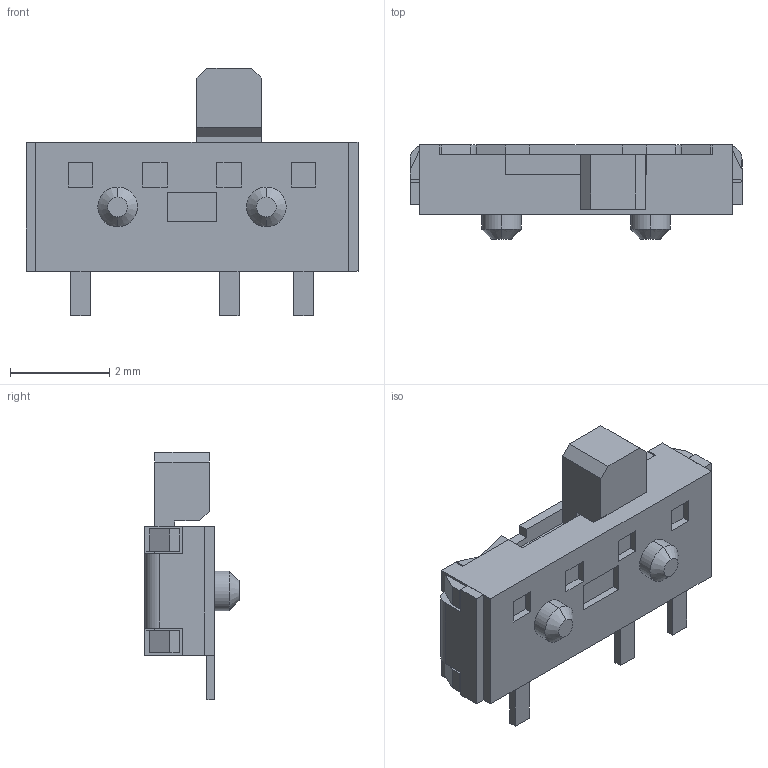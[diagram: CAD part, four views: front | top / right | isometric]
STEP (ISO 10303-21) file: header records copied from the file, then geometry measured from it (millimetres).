
FILE_DESCRIPTION (( 'STEP AP214' ), '1' );
FILE_NAME ('SSSS810701.STEP', '2025-09-01T07:16:52', ( '' ), ( '' ), 'SwSTEP 2.0', 'SolidWorks 2023', '' );
FILE_SCHEMA (( 'AUTOMOTIVE_DESIGN' ));
Length unit declared in the file: millimetre
Products named in the file (1): SSSS810701
Bounding box: 6.7 x 1.9 x 5 mm (x, y, z)
Volume: 25.8 mm3; surface area: 79.4 mm2
Topology: 1 solids, 1 shells, 167 faces, 445 edges, 287 vertices
Faces by surface type: plane 151, cylinder 12, cone 4
Entity records: 6902 total; most frequent: CARTESIAN_POINT 900, ORIENTED_EDGE 890, DIRECTION 809, EDGE_CURVE 445, LINE 417, VECTOR 417, VERTEX_POINT 287, AXIS2_PLACEMENT_3D 196
